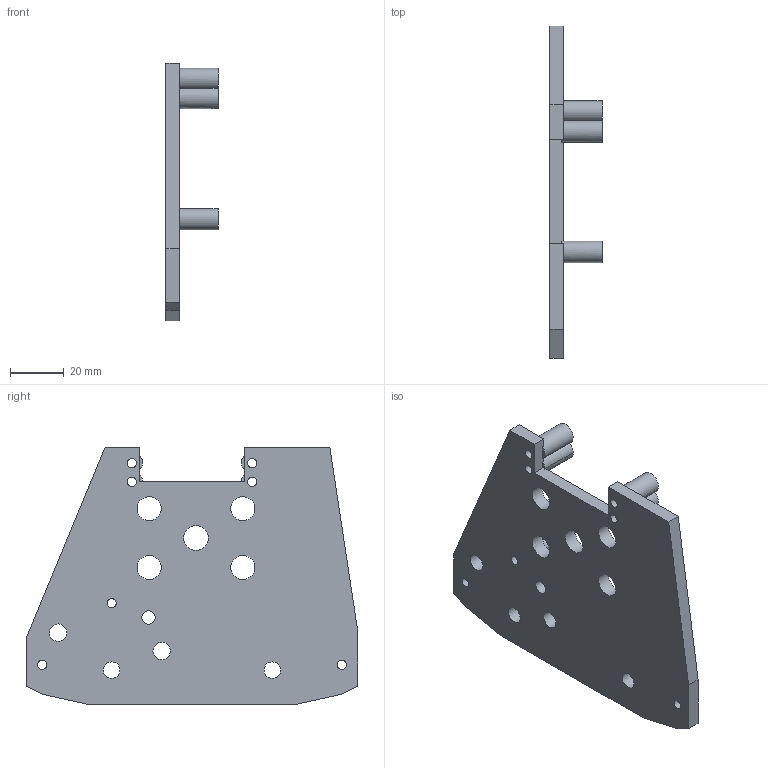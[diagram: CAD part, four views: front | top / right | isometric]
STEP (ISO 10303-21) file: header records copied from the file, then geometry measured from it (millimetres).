
FILE_DESCRIPTION(('Open CASCADE Model'),'2;1');
FILE_NAME('Open CASCADE Shape Model','2026-10-16T05:25:08',('Author'),( 'Open CASCADE'),'Open CASCADE STEP processor 7.9','Open CASCADE 7.9' ,'Unknown');
FILE_SCHEMA(('AUTOMOTIVE_DESIGN { 1 0 10303 214 1 1 1 1 }'));
Length unit declared in the file: millimetre
Products named in the file (1): Open CASCADE STEP translator 7.9 15
Bounding box: 19.5 x 124 x 96.36 mm (x, y, z)
Volume: 49693.7 mm3; surface area: 24766.1 mm2
Topology: 1 solids, 1 shells, 48 faces, 134 edges, 89 vertices
Faces by surface type: plane 25, cylinder 23
Full cylindrical faces by diameter (mm): 3.4 x7, 5.1 x1, 6.2 x2, 6.5 x2, 8 x1, 9 x4, 9.2 x1
Entity records: 3481 total; most frequent: CARTESIAN_POINT 856, DIRECTION 467, ORIENTED_EDGE 268, PCURVE 268, DEFINITIONAL_REPRESENTATION 268, LINE 256, VECTOR 256, EDGE_CURVE 134
